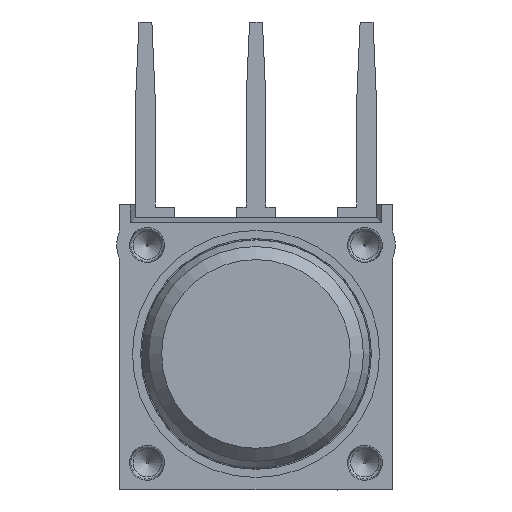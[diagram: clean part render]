
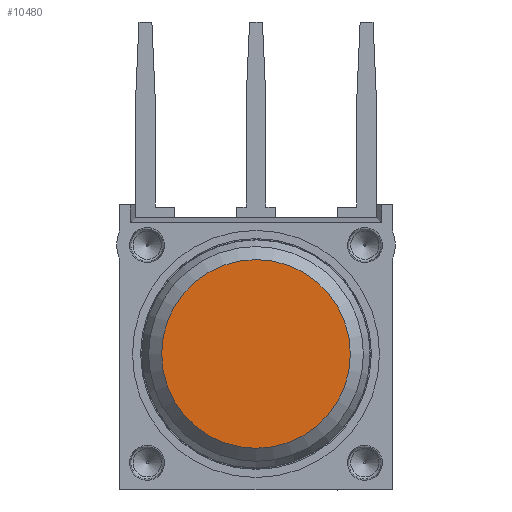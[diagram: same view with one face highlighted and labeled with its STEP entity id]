
A CAD part, left-side view. The second image highlights one B-rep face of the part: STEP entity #10480.
In plain terms, the highlighted planar face has unit normal (-1, 0, 0).
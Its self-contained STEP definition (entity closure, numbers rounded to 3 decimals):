
#4163=ORIENTED_EDGE('',*,*,#6285,.T.);
#6285=EDGE_CURVE('',#7520,#7520,#8177,.T.);
#7520=VERTEX_POINT('',#17307);
#8177=CIRCLE('',#11515,4.334);
#8792=EDGE_LOOP('',(#4163));
#9536=FACE_BOUND('',#8792,.T.);
#10006=PLANE('',#11516);
#10480=ADVANCED_FACE('',(#9536),#10006,.T.);
#11515=AXIS2_PLACEMENT_3D('',#17306,#13680,#13681);
#11516=AXIS2_PLACEMENT_3D('',#17308,#13682,#13683);
#13680=DIRECTION('',(-1.,0.,0.));
#13681=DIRECTION('',(0.,0.172,0.985));
#13682=DIRECTION('',(-1.,0.,0.));
#13683=DIRECTION('',(0.,0.172,0.985));
#17306=CARTESIAN_POINT('',(-12.854,0.,0.));
#17307=CARTESIAN_POINT('',(-12.854,0.746,4.269));
#17308=CARTESIAN_POINT('',(-12.854,0.,0.));
